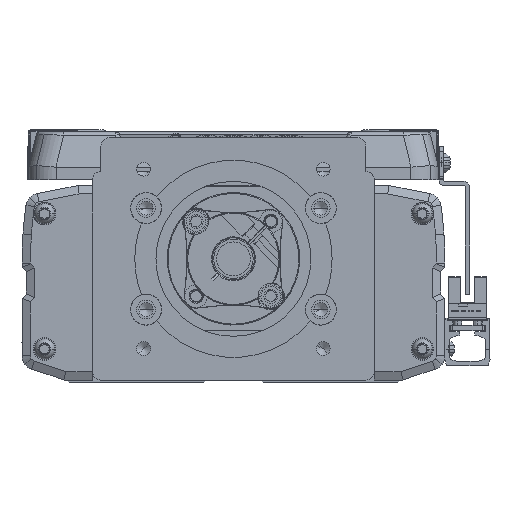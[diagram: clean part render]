
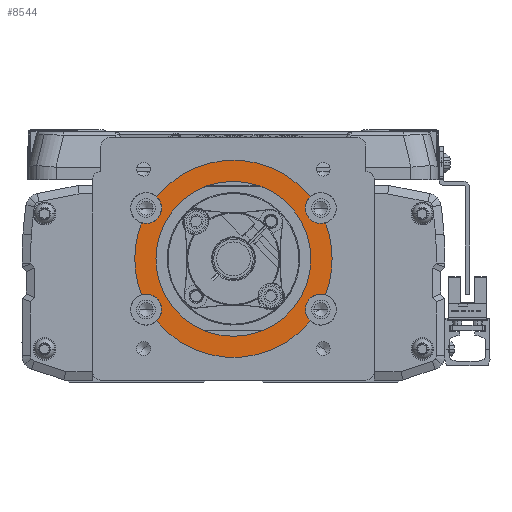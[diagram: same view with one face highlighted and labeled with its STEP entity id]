
A CAD part, left-side view. The second image highlights one B-rep face of the part: STEP entity #8544.
In plain terms, the highlighted planar face has unit normal (-1, 0, 0).
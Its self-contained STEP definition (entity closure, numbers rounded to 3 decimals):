
#8544=ADVANCED_FACE('',(#18554,#18555),#18556,.F.);
#18554=FACE_OUTER_BOUND('',#31589,.T.);
#18555=FACE_BOUND('',#31590,.T.);
#18556=PLANE('',#31591);
#31589=EDGE_LOOP('',(#55806,#55807,#55808,#55809,#55810,#55811,#55812,#55813,#55814,#55815,#55816,#55817,#55818,#55819));
#31590=EDGE_LOOP('',(#55820,#55821));
#31591=AXIS2_PLACEMENT_3D('',#55822,#55823,#55824);
#55806=ORIENTED_EDGE('',*,*,#76340,.F.);
#55807=ORIENTED_EDGE('',*,*,#76471,.T.);
#55808=ORIENTED_EDGE('',*,*,#79447,.T.);
#55809=ORIENTED_EDGE('',*,*,#75028,.F.);
#55810=ORIENTED_EDGE('',*,*,#79448,.F.);
#55811=ORIENTED_EDGE('',*,*,#79449,.T.);
#55812=ORIENTED_EDGE('',*,*,#79450,.F.);
#55813=ORIENTED_EDGE('',*,*,#70299,.F.);
#55814=ORIENTED_EDGE('',*,*,#75814,.T.);
#55815=ORIENTED_EDGE('',*,*,#78158,.T.);
#55816=ORIENTED_EDGE('',*,*,#79248,.F.);
#55817=ORIENTED_EDGE('',*,*,#79451,.F.);
#55818=ORIENTED_EDGE('',*,*,#77293,.T.);
#55819=ORIENTED_EDGE('',*,*,#73723,.F.);
#55820=ORIENTED_EDGE('',*,*,#79452,.F.);
#55821=ORIENTED_EDGE('',*,*,#74372,.F.);
#55822=CARTESIAN_POINT('',(-69.,0.,0.));
#55823=DIRECTION('',(1.0,0.,0.));
#55824=DIRECTION('',(0.,1.0,0.));
#70299=EDGE_CURVE('',#83489,#83491,#83492,.T.);
#73723=EDGE_CURVE('',#89431,#89433,#89434,.T.);
#74372=EDGE_CURVE('',#90496,#90498,#90499,.T.);
#75028=EDGE_CURVE('',#91532,#91534,#91535,.T.);
#75814=EDGE_CURVE('',#83489,#92771,#92773,.T.);
#76340=EDGE_CURVE('',#93538,#89431,#93540,.T.);
#76471=EDGE_CURVE('',#93538,#93740,#93743,.T.);
#77293=EDGE_CURVE('',#94947,#89433,#94948,.T.);
#78158=EDGE_CURVE('',#92771,#96150,#96152,.T.);
#79248=EDGE_CURVE('',#97586,#96150,#97588,.T.);
#79447=EDGE_CURVE('',#93740,#91534,#97840,.T.);
#79448=EDGE_CURVE('',#97841,#91532,#97842,.T.);
#79449=EDGE_CURVE('',#97841,#97843,#97844,.T.);
#79450=EDGE_CURVE('',#83491,#97843,#97845,.T.);
#79451=EDGE_CURVE('',#94947,#97586,#97846,.T.);
#79452=EDGE_CURVE('',#90498,#90496,#97847,.T.);
#83489=VERTEX_POINT('',#102508);
#83491=VERTEX_POINT('',#102511);
#83492=CIRCLE('',#102512,5.5);
#89431=VERTEX_POINT('',#111507);
#89433=VERTEX_POINT('',#111510);
#89434=CIRCLE('',#111511,5.5);
#90496=VERTEX_POINT('',#113074);
#90498=VERTEX_POINT('',#113077);
#90499=CIRCLE('',#113078,27.5);
#91532=VERTEX_POINT('',#114480);
#91534=VERTEX_POINT('',#114483);
#91535=CIRCLE('',#114484,5.5);
#92771=VERTEX_POINT('',#116127);
#92773=CIRCLE('',#116130,35.0);
#93538=VERTEX_POINT('',#117217);
#93540=CIRCLE('',#117220,5.5);
#93740=VERTEX_POINT('',#117502);
#93743=CIRCLE('',#117506,35.0);
#94947=VERTEX_POINT('',#119197);
#94948=CIRCLE('',#119198,35.0);
#96150=VERTEX_POINT('',#120839);
#96152=CIRCLE('',#120842,35.0);
#97586=VERTEX_POINT('',#122895);
#97588=CIRCLE('',#122898,5.5);
#97840=CIRCLE('',#123270,35.0);
#97841=VERTEX_POINT('',#123271);
#97842=CIRCLE('',#123272,5.5);
#97843=VERTEX_POINT('',#123273);
#97844=CIRCLE('',#123274,35.0);
#97845=CIRCLE('',#123275,5.5);
#97846=CIRCLE('',#123276,5.5);
#97847=CIRCLE('',#123277,27.5);
#102508=CARTESIAN_POINT('',(-69.,-32.6,-12.738));
#102511=CARTESIAN_POINT('',(-69.,-25.5,-18.));
#102512=AXIS2_PLACEMENT_3D('',#129393,#129394,#129395);
#111507=CARTESIAN_POINT('',(-69.,25.5,18.));
#111510=CARTESIAN_POINT('',(-69.,27.223,21.998));
#111511=AXIS2_PLACEMENT_3D('',#134404,#134405,#134406);
#113074=CARTESIAN_POINT('',(-69.,27.5,0.));
#113077=CARTESIAN_POINT('',(-69.,-27.5,0.));
#113078=AXIS2_PLACEMENT_3D('',#135337,#135338,#135339);
#114480=CARTESIAN_POINT('',(-69.,25.5,-18.));
#114483=CARTESIAN_POINT('',(-69.,32.6,-12.738));
#114484=AXIS2_PLACEMENT_3D('',#136256,#136257,#136258);
#116127=CARTESIAN_POINT('',(-69.,-35.,0.));
#116130=AXIS2_PLACEMENT_3D('',#137513,#137514,#137515);
#117217=CARTESIAN_POINT('',(-69.,32.6,12.738));
#117220=AXIS2_PLACEMENT_3D('',#138259,#138260,#138261);
#117502=CARTESIAN_POINT('',(-69.,35.,0.));
#117506=AXIS2_PLACEMENT_3D('',#138444,#138445,#138446);
#119197=CARTESIAN_POINT('',(-69.,-27.223,21.998));
#119198=AXIS2_PLACEMENT_3D('',#139645,#139646,#139647);
#120839=CARTESIAN_POINT('',(-69.,-32.6,12.738));
#120842=AXIS2_PLACEMENT_3D('',#140881,#140882,#140883);
#122895=CARTESIAN_POINT('',(-69.,-25.5,18.));
#122898=AXIS2_PLACEMENT_3D('',#142280,#142281,#142282);
#123270=AXIS2_PLACEMENT_3D('',#142508,#142509,#142510);
#123271=CARTESIAN_POINT('',(-69.,27.223,-21.998));
#123272=AXIS2_PLACEMENT_3D('',#142511,#142512,#142513);
#123273=CARTESIAN_POINT('',(-69.,-27.223,-21.998));
#123274=AXIS2_PLACEMENT_3D('',#142514,#142515,#142516);
#123275=AXIS2_PLACEMENT_3D('',#142517,#142518,#142519);
#123276=AXIS2_PLACEMENT_3D('',#142520,#142521,#142522);
#123277=AXIS2_PLACEMENT_3D('',#142523,#142524,#142525);
#129393=CARTESIAN_POINT('',(-69.,-31.,-18.));
#129394=DIRECTION('',(-1.0,0.,0.));
#129395=DIRECTION('',(0.,-1.0,0.));
#134404=CARTESIAN_POINT('',(-69.,31.,18.));
#134405=DIRECTION('',(-1.0,0.,0.));
#134406=DIRECTION('',(0.,1.0,0.));
#135337=CARTESIAN_POINT('',(-69.,0.,0.));
#135338=DIRECTION('',(-1.0,0.,0.));
#135339=DIRECTION('',(0.,1.0,0.));
#136256=CARTESIAN_POINT('',(-69.,31.,-18.));
#136257=DIRECTION('',(-1.0,0.,0.));
#136258=DIRECTION('',(0.,1.0,0.));
#137513=CARTESIAN_POINT('',(-69.,0.,0.));
#137514=DIRECTION('',(-1.0,0.,0.));
#137515=DIRECTION('',(0.,1.0,0.));
#138259=CARTESIAN_POINT('',(-69.,31.,18.));
#138260=DIRECTION('',(-1.0,0.,0.));
#138261=DIRECTION('',(0.,1.0,0.));
#138444=CARTESIAN_POINT('',(-69.,0.,0.));
#138445=DIRECTION('',(-1.0,0.,0.));
#138446=DIRECTION('',(0.,1.0,0.));
#139645=CARTESIAN_POINT('',(-69.,0.,0.));
#139646=DIRECTION('',(-1.0,0.,0.));
#139647=DIRECTION('',(0.,1.0,0.));
#140881=CARTESIAN_POINT('',(-69.,0.,0.));
#140882=DIRECTION('',(-1.0,0.,0.));
#140883=DIRECTION('',(0.,1.0,0.));
#142280=CARTESIAN_POINT('',(-69.,-31.,18.));
#142281=DIRECTION('',(-1.0,0.,0.));
#142282=DIRECTION('',(0.,-1.0,0.));
#142508=CARTESIAN_POINT('',(-69.,0.,0.));
#142509=DIRECTION('',(-1.0,0.,0.));
#142510=DIRECTION('',(0.,1.0,0.));
#142511=CARTESIAN_POINT('',(-69.,31.,-18.));
#142512=DIRECTION('',(-1.0,0.,0.));
#142513=DIRECTION('',(0.,1.0,0.));
#142514=CARTESIAN_POINT('',(-69.,0.,0.));
#142515=DIRECTION('',(-1.0,0.,0.));
#142516=DIRECTION('',(0.,1.0,0.));
#142517=CARTESIAN_POINT('',(-69.,-31.,-18.));
#142518=DIRECTION('',(-1.0,0.,0.));
#142519=DIRECTION('',(0.,-1.0,0.));
#142520=CARTESIAN_POINT('',(-69.,-31.,18.));
#142521=DIRECTION('',(-1.0,0.,0.));
#142522=DIRECTION('',(0.,-1.0,0.));
#142523=CARTESIAN_POINT('',(-69.,0.,0.));
#142524=DIRECTION('',(-1.0,0.,0.));
#142525=DIRECTION('',(0.,1.0,0.));
